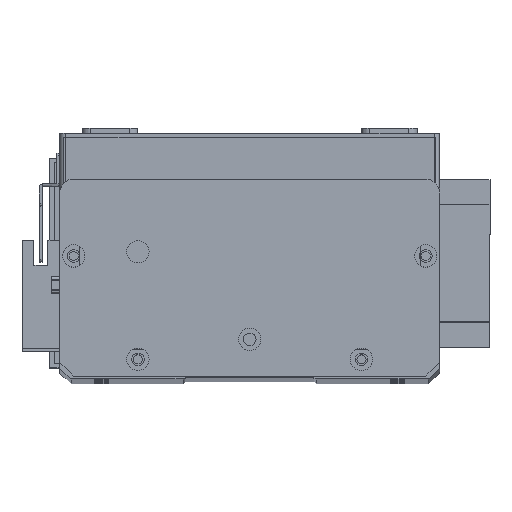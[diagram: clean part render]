
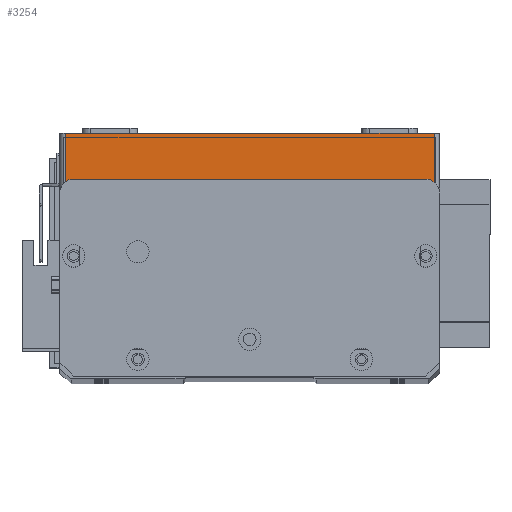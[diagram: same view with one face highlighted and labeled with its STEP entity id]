
A CAD part, top view. The second image highlights one B-rep face of the part: STEP entity #3254.
In plain terms, the highlighted planar face has unit normal (0, 0, 1) as drawn and (0, -1, 0) by its records, which use the part's own axes.
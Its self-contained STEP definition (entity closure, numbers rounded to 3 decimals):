
#2937 = CARTESIAN_POINT ( 'NONE',  ( 134., 0., 0. ) ) ;
#2998 = ORIENTED_EDGE ( 'NONE', *, *, #21849, .F. ) ;
#3161 = PLANE ( 'NONE',  #22079 ) ;
#3254 = ADVANCED_FACE ( 'NONE', ( #12412 ), #3161, .F. ) ;
#3545 = DIRECTION ( 'NONE',  ( 1., 0., 0. ) ) ;
#3858 = CARTESIAN_POINT ( 'NONE',  ( 0., 0., 0. ) ) ;
#4047 = LINE ( 'NONE', #5198, #27105 ) ;
#4099 = EDGE_LOOP ( 'NONE', ( #2998, #12171, #8245, #25673 ) ) ;
#5178 = LINE ( 'NONE', #14656, #10443 ) ;
#5198 = CARTESIAN_POINT ( 'NONE',  ( 2., 0., 19.5 ) ) ;
#5714 = VERTEX_POINT ( 'NONE', #13862 ) ;
#6946 = EDGE_CURVE ( 'NONE', #12510, #15642, #13048, .T. ) ;
#7675 = DIRECTION ( 'NONE',  ( 0., 1., 0. ) ) ;
#8245 = ORIENTED_EDGE ( 'NONE', *, *, #26673, .T. ) ;
#9698 = VECTOR ( 'NONE', #19479, 1000. ) ;
#10443 = VECTOR ( 'NONE', #3545, 1000. ) ;
#11236 = CARTESIAN_POINT ( 'NONE',  ( 2., 0., 19.5 ) ) ;
#12171 = ORIENTED_EDGE ( 'NONE', *, *, #12500, .T. ) ;
#12412 = FACE_OUTER_BOUND ( 'NONE', #4099, .T. ) ;
#12500 = EDGE_CURVE ( 'NONE', #23315, #5714, #4047, .T. ) ;
#12510 = VERTEX_POINT ( 'NONE', #2937 ) ;
#13048 = LINE ( 'NONE', #28812, #24252 ) ;
#13862 = CARTESIAN_POINT ( 'NONE',  ( 2., 0., 0. ) ) ;
#14656 = CARTESIAN_POINT ( 'NONE',  ( 0., 0., 19.5 ) ) ;
#15642 = VERTEX_POINT ( 'NONE', #21715 ) ;
#15648 = LINE ( 'NONE', #3858, #9698 ) ;
#18799 = CARTESIAN_POINT ( 'NONE',  ( 0., 0., 19.5 ) ) ;
#19479 = DIRECTION ( 'NONE',  ( 1., 0., 0. ) ) ;
#19851 = DIRECTION ( 'NONE',  ( 0., 0., 1. ) ) ;
#20847 = DIRECTION ( 'NONE',  ( 0., 0., -1. ) ) ;
#21715 = CARTESIAN_POINT ( 'NONE',  ( 134., 0., 19.5 ) ) ;
#21849 = EDGE_CURVE ( 'NONE', #23315, #15642, #5178, .T. ) ;
#22079 = AXIS2_PLACEMENT_3D ( 'NONE', #18799, #7675, #23310 ) ;
#23310 = DIRECTION ( 'NONE',  ( 0., 0., 1. ) ) ;
#23315 = VERTEX_POINT ( 'NONE', #11236 ) ;
#24252 = VECTOR ( 'NONE', #19851, 1000. ) ;
#25673 = ORIENTED_EDGE ( 'NONE', *, *, #6946, .T. ) ;
#26673 = EDGE_CURVE ( 'NONE', #5714, #12510, #15648, .T. ) ;
#27105 = VECTOR ( 'NONE', #20847, 1000. ) ;
#28812 = CARTESIAN_POINT ( 'NONE',  ( 134., 0., 19.5 ) ) ;
